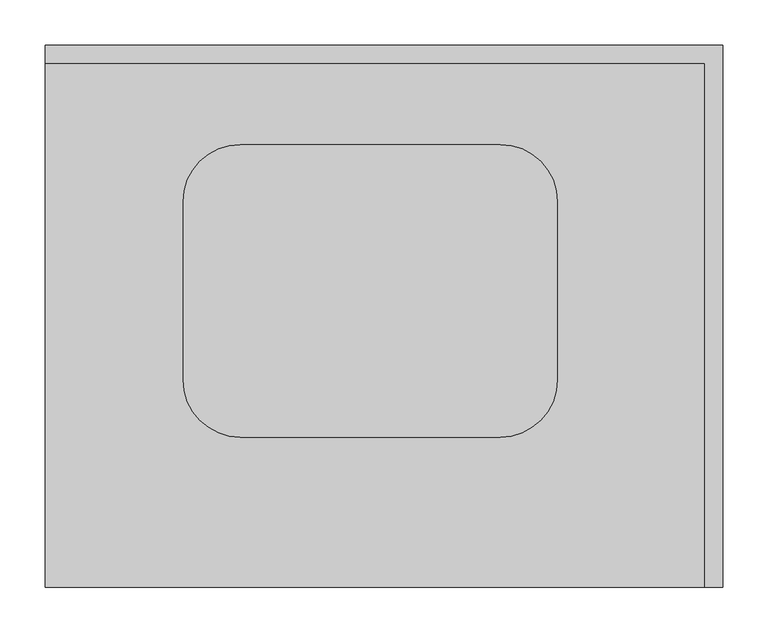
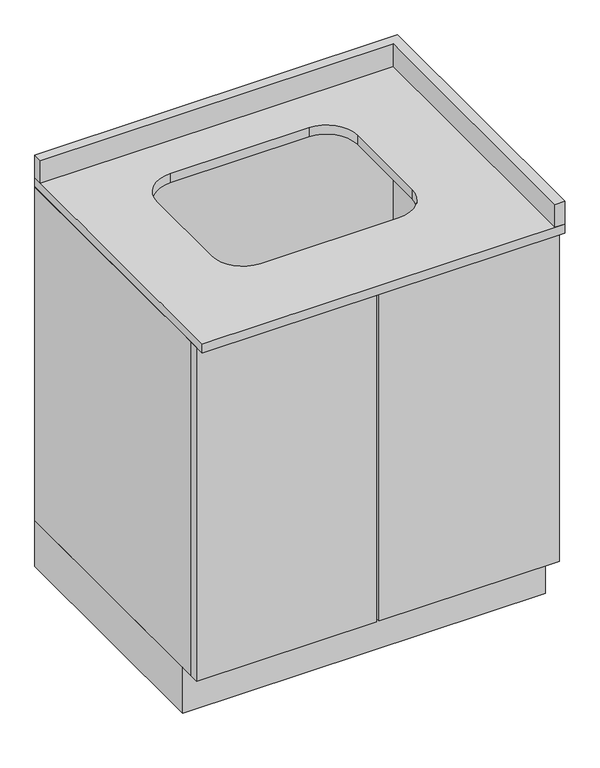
"""IFC4 building model written with IfcOpenShell, lengths in millimetres: furniture geometry, ARQ_MOB_BAÑO-02 : MUEBLE_BAÑO-02."""

from ifc_helpers import new_model, si_unit, point, frame, frame_2d, origin, origin_with_axes, place, context, project, spatial, polyline, circle_curve, trimmed, segment, composite_curve, outline, extrude, source, transform, mapped, element, save


def furniture_e75571a7(model_context):
    return source(origin(), model_context, "Body", "SweptSolid", [
        extrude(outline(polyline([(42.2003264, -560.0), (42.2003264, -580.0), (-330.2996736, -580.0), (-330.2996736, -560.0), (42.2003264, -560.0)])), frame((0.0, 0.0, 100.0), z_axis=(0.0, 0.0, 1.0), x_axis=(1.0, 0.0, 0.0)), (0.0, 0.0, 1.0), 730.0),
        extrude(outline(polyline([(419.7003264, -560.0), (419.7003264, -580.0), (47.2003264, -580.0), (47.2003264, -560.0), (419.7003264, -560.0)])), frame((0.0, 0.0, 100.0), z_axis=(0.0, 0.0, 1.0), x_axis=(1.0, 0.0, 0.0)), (0.0, 0.0, 1.0), 730.0),
        extrude(outline(polyline([(-310.2996736, -20.0), (399.7003264, -20.0), (399.7003264, -560.0), (-310.2996736, -560.0), (-310.2996736, -20.0)])), frame((0.0, 0.0, 100.0), z_axis=(0.0, 0.0, 1.0), x_axis=(1.0, 0.0, 0.0)), (0.0, 0.0, 1.0), 20.0),
        extrude(outline(polyline([(419.7003264, 0.0), (419.7003264, -560.0), (399.7003264, -560.0), (399.7003264, -20.0), (-310.2996736, -20.0), (-310.2996736, -560.0), (-330.2996736, -560.0), (-330.2996736, 0.0), (419.7003264, 0.0)])), frame((0.0, 0.0, 100.0), z_axis=(0.0, 0.0, 1.0), x_axis=(1.0, 0.0, 0.0)), (0.0, 0.0, 1.0), 730.0),
        extrude(outline(polyline([(419.7003264, 0.0), (419.7003264, -530.0), (-330.2996736, -530.0), (-330.2996736, 0.0), (419.7003264, 0.0)])), origin_with_axes(), (0.0, 0.0, 1.0), 100.0),
        extrude(outline(polyline([(419.7003264, 0.0), (419.7003264, -600.0), (399.7003264, -600.0), (399.7003264, -20.0), (-330.2996736, -20.0), (-330.2996736, 0.0), (419.7003264, 0.0)])), frame((0.0, 0.0, 850.0), z_axis=(0.0, 0.0, 1.0), x_axis=(1.0, 0.0, 0.0)), (0.0, 0.0, 1.0), 50.0),
        extrude(outline(polyline([(419.7003264, 0.0), (419.7003264, -600.0), (-330.2996736, -600.0), (-330.2996736, 0.0), (419.7003264, 0.0)]), holes=[composite_curve([segment(trimmed(circle_curve(frame_2d((-114.1247071, -370.3)), 63.5), [point((-177.6247071, -370.3))], [point((-114.1247071, -433.8))], True, "CARTESIAN"), True, "CONTINUOUS"), segment(polyline([(-114.1247071, -433.8), (173.1502929, -433.8)]), True, "CONTINUOUS"), segment(trimmed(circle_curve(frame_2d((173.1502929, -370.3)), 63.5), [point((173.1502929, -433.8))], [point((236.6502929, -370.3))], True, "CARTESIAN"), True, "CONTINUOUS"), segment(polyline([(236.6502929, -370.3), (236.6502929, -173.5)]), True, "CONTINUOUS"), segment(trimmed(circle_curve(frame_2d((173.1502929, -173.5)), 63.5), [point((236.6502929, -173.5))], [point((173.1502929, -110.0))], True, "CARTESIAN"), True, "CONTINUOUS"), segment(polyline([(173.1502929, -110.0), (-114.1247071, -110.0)]), True, "CONTINUOUS"), segment(trimmed(circle_curve(frame_2d((-114.1247071, -173.5)), 63.5), [point((-114.1247071, -110.0))], [point((-177.6247071, -173.5))], True, "CARTESIAN"), True, "CONTINUOUS"), segment(polyline([(-177.6247071, -173.5), (-177.6247071, -370.3)]), True, "CONTINUOUS")], self_intersect=False)]), frame((0.0, 0.0, 830.0), z_axis=(0.0, 0.0, 1.0), x_axis=(1.0, 0.0, 0.0)), (0.0, 0.0, 1.0), 20.0),
    ])


if __name__ == "__main__":
    model = new_model("IFC4")
    model_context = context("Model", 3, world=origin())
    ifc_project = project(units=[si_unit("LENGTHUNIT", "METRE", prefix="MILLI")], contexts=[model_context])
    site = spatial("IfcSite", under=ifc_project)
    building = spatial("IfcBuilding", under=site)
    placement = place(None, origin())
    furniture_shape = furniture_e75571a7(model_context)
    element("IfcFurniture", 1, ObjectType="ARQ_MOB_BAÑO-02 : MUEBLE_BAÑO-02", at=placement, inside=building, context=model_context, shape_type="MappedRepresentation", body=[
        mapped(furniture_shape, transform((0.0, 0.0, 0.0), x_axis=(1.0, 0.0, 0.0), y_axis=(0.0, 1.0, 0.0), z_axis=(0.0, 0.0, 1.0))),
    ])
    save(model, "model.ifc")
